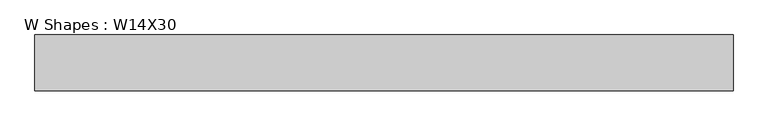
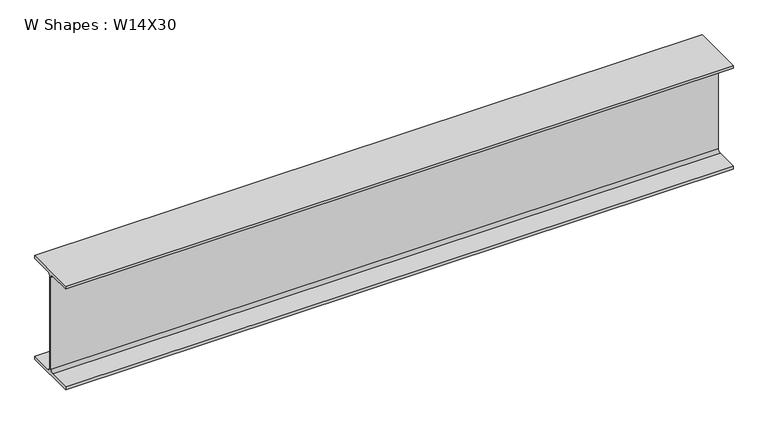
"""IFC4 building model written with IfcOpenShell, lengths in millimetres: beam geometry, W Shapes : W14X30."""

from ifc_helpers import new_model, si_unit, point, frame, frame_2d, origin, place, context, project, spatial, polyline, circle_curve, trimmed, segment, composite_curve, outline, extrude, source, transform, mapped, element, save


def w_shapes_w14x30_b3bb4f38(model_context):
    return source(origin(), model_context, "Body", "SweptSolid", [
        extrude(outline(composite_curve([segment(polyline([(85.471, -165.481), (85.471, -175.26), (-85.471, -175.26), (-85.471, -165.481), (-13.589, -165.481)]), True, "CONTINUOUS"), segment(trimmed(circle_curve(frame_2d((-13.589, -155.321)), 10.16), [point((-13.589, -165.481))], [point((-3.429, -155.321))], True, "CARTESIAN"), True, "CONTINUOUS"), segment(polyline([(-3.429, -155.321), (-3.429, 155.321)]), True, "CONTINUOUS"), segment(trimmed(circle_curve(frame_2d((-13.589, 155.321)), 10.16), [point((-3.429, 155.321))], [point((-13.589, 165.481))], True, "CARTESIAN"), True, "CONTINUOUS"), segment(polyline([(-13.589, 165.481), (-85.471, 165.481), (-85.471, 175.26), (85.471, 175.26), (85.471, 165.481), (13.589, 165.481)]), True, "CONTINUOUS"), segment(trimmed(circle_curve(frame_2d((13.589, 155.321)), 10.16), [point((13.589, 165.481))], [point((3.429, 155.321))], True, "CARTESIAN"), True, "CONTINUOUS"), segment(polyline([(3.429, 155.321), (3.429, -155.321)]), True, "CONTINUOUS"), segment(trimmed(circle_curve(frame_2d((13.589, -155.321)), 10.16), [point((3.429, -155.321))], [point((13.589, -165.481))], True, "CARTESIAN"), True, "CONTINUOUS"), segment(polyline([(13.589, -165.481), (85.471, -165.481)]), True, "CONTINUOUS")], self_intersect=False)), frame((-1067.6147122, 0.0, 0.0), z_axis=(1.0, 0.0, 0.0), x_axis=(0.0, 1.0, 0.0)), (0.0, 0.0, 1.0), 2135.2294243),
    ])


if __name__ == "__main__":
    model = new_model("IFC4")
    model_context = context("Model", 3, world=origin())
    ifc_project = project(units=[si_unit("LENGTHUNIT", "METRE", prefix="MILLI")], contexts=[model_context])
    site = spatial("IfcSite", under=ifc_project)
    building = spatial("IfcBuilding", under=site)
    placement = place(None, origin())
    w_shapes_w14x30_shape = w_shapes_w14x30_b3bb4f38(model_context)
    element("IfcBeam", 1, ObjectType="W Shapes : W14X30", at=placement, inside=building, context=model_context, shape_type="MappedRepresentation", body=[
        mapped(w_shapes_w14x30_shape, transform((0.0, 0.0, 0.0), x_axis=(1.0, 0.0, 0.0), y_axis=(0.0, 1.0, 0.0), z_axis=(0.0, 0.0, 1.0))),
    ])
    save(model, "model.ifc")
